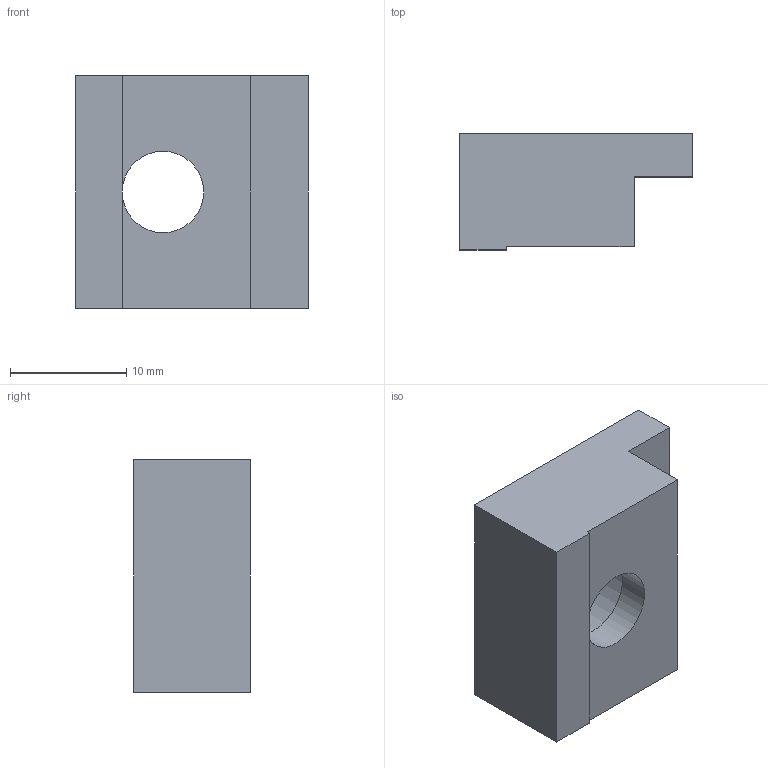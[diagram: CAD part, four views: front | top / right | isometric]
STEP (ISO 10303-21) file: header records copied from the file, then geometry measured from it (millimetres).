
FILE_DESCRIPTION(/* description */ ('Impex Ready, www.impex-ready.pl'),/* implementation_level */ '2;1');
FILE_NAME(/* name */ 'C:\Users\VIKKY\Nextcloud\SM\projekt 10 - części na stronę internetową\Pliki_3D_new\285 Zaczepy S\285_S_STEP\S20.ipt.step',/* time_stamp */ '2022-01-21T15:59:33+01:00',/* author */ ('SM'),/* organization */ (''),/* preprocessor_version */ 'ST-DEVELOPER v18.1',/* originating_system */ 'Autodesk Inventor 2021',/* authorisation */ '');
FILE_SCHEMA (('AUTOMOTIVE_DESIGN { 1 0 10303 214 3 1 1 }'));
Length unit declared in the file: millimetre
Products named in the file (1): S20
Bounding box: 20 x 10 x 20 mm (x, y, z)
Volume: 2534.9 mm3; surface area: 1754.7 mm2
Topology: 1 solids, 1 shells, 13 faces, 31 edges, 20 vertices
Faces by surface type: plane 11, cylinder 2
Full cylindrical faces by diameter (mm): 7 x1, 11 x1
Entity records: 440 total; most frequent: CARTESIAN_POINT 65, DIRECTION 63, ORIENTED_EDGE 62, EDGE_CURVE 31, LINE 27, VECTOR 27, VERTEX_POINT 20, AXIS2_PLACEMENT_3D 18
